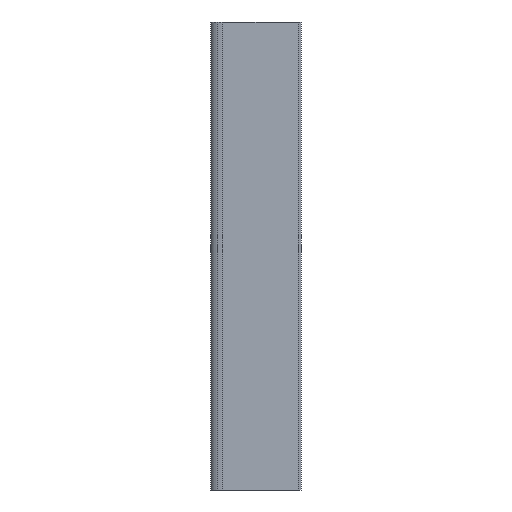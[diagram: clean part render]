
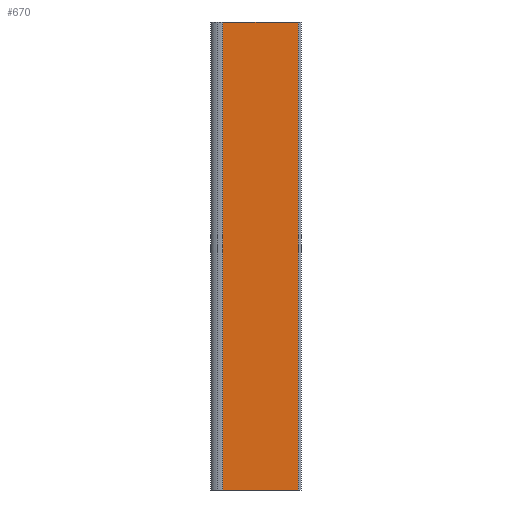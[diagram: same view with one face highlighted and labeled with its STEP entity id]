
A CAD part, left-side view. The second image highlights one B-rep face of the part: STEP entity #670.
In plain terms, the highlighted planar face has unit normal (-1, 0, 0).
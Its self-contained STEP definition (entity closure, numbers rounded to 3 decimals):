
#6 = VECTOR ( 'NONE', #742, 1000. ) ;
#7 = LINE ( 'NONE', #741, #6 ) ;
#96 = FACE_OUTER_BOUND ( 'NONE', #1232, .T. ) ;
#163 = VECTOR ( 'NONE', #413, 1000. ) ;
#164 = LINE ( 'NONE', #412, #163 ) ;
#284 = VECTOR ( 'NONE', #801, 1000. ) ;
#295 = LINE ( 'NONE', #798, #284 ) ;
#307 = VECTOR ( 'NONE', #763, 1000. ) ;
#308 = LINE ( 'NONE', #762, #307 ) ;
#412 = CARTESIAN_POINT ( 'NONE',  ( -8.945, -3.6, 0. ) ) ;
#413 = DIRECTION ( 'NONE',  ( 0., -1., 0. ) ) ;
#452 = ORIENTED_EDGE ( 'NONE', *, *, #1214, .T. ) ;
#453 = ORIENTED_EDGE ( 'NONE', *, *, #1066, .F. ) ;
#454 = ORIENTED_EDGE ( 'NONE', *, *, #1047, .F. ) ;
#455 = ORIENTED_EDGE ( 'NONE', *, *, #1035, .T. ) ;
#573 = CARTESIAN_POINT ( 'NONE',  ( -8.945, -78.967, 0. ) ) ;
#602 = CARTESIAN_POINT ( 'NONE',  ( -8.945, -78.967, 468. ) ) ;
#608 = CARTESIAN_POINT ( 'NONE',  ( -8.945, -3.6, 0. ) ) ;
#619 = CARTESIAN_POINT ( 'NONE',  ( -8.945, -3.6, 468. ) ) ;
#670 = ADVANCED_FACE ( 'NONE', ( #96 ), #941, .F. ) ;
#741 = CARTESIAN_POINT ( 'NONE',  ( -8.945, -3.6, 468. ) ) ;
#742 = DIRECTION ( 'NONE',  ( 0., 0., -1. ) ) ;
#762 = CARTESIAN_POINT ( 'NONE',  ( -8.945, -3.6, 468. ) ) ;
#763 = DIRECTION ( 'NONE',  ( 0., -1., 0. ) ) ;
#798 = CARTESIAN_POINT ( 'NONE',  ( -8.945, -78.967, 468. ) ) ;
#801 = DIRECTION ( 'NONE',  ( 0., 0., -1. ) ) ;
#857 = VERTEX_POINT ( 'NONE', #573 ) ;
#887 = VERTEX_POINT ( 'NONE', #602 ) ;
#893 = VERTEX_POINT ( 'NONE', #608 ) ;
#904 = VERTEX_POINT ( 'NONE', #619 ) ;
#941 = PLANE ( 'NONE',  #1218 ) ;
#944 = CARTESIAN_POINT ( 'NONE',  ( -8.945, -3.6, 468. ) ) ;
#950 = DIRECTION ( 'NONE',  ( 1., 0., 0. ) ) ;
#951 = DIRECTION ( 'NONE',  ( 0., 1., 0. ) ) ;
#1035 = EDGE_CURVE ( 'NONE', #904, #893, #7, .T. ) ;
#1047 = EDGE_CURVE ( 'NONE', #904, #887, #308, .T. ) ;
#1066 = EDGE_CURVE ( 'NONE', #887, #857, #295, .T. ) ;
#1214 = EDGE_CURVE ( 'NONE', #893, #857, #164, .T. ) ;
#1218 = AXIS2_PLACEMENT_3D ( 'NONE', #944, #950, #951 ) ;
#1232 = EDGE_LOOP ( 'NONE', ( #452, #453, #454, #455 ) ) ;
